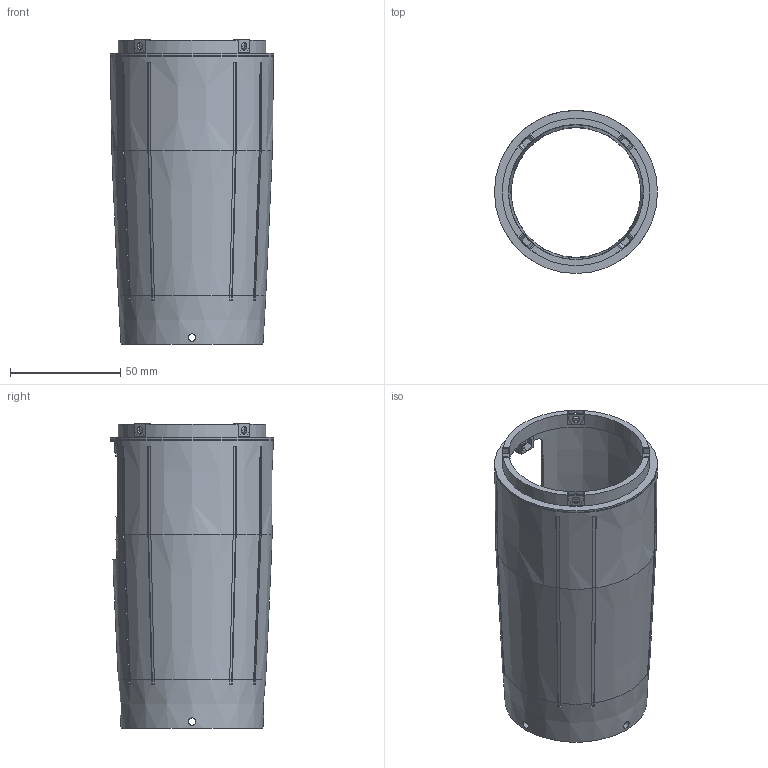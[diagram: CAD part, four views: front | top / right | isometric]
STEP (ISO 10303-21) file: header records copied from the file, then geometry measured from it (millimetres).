
FILE_DESCRIPTION(('FreeCAD Model'),'2;1');
FILE_NAME('Open CASCADE Shape Model','2026-09-19T21:01:32',('FreeCAD'),( 'FreeCAD'),'Open CASCADE STEP processor 7.8','FreeCAD','Unknown');
FILE_SCHEMA(('AUTOMOTIVE_DESIGN { 1 0 10303 214 1 1 1 1 }'));
Length unit declared in the file: millimetre
Products named in the file (1): Open CASCADE STEP translator 7.8 1
Bounding box: 74 x 74 x 138.2 mm (x, y, z)
Volume: 78242.9 mm3; surface area: 61851 mm2
Topology: 1 solids, 1 shells, 207 faces, 599 edges, 401 vertices
Faces by surface type: plane 141, cone 41, cylinder 25
Full cylindrical faces by diameter (mm): 3.4 x14, 61.3 x1, 66.9 x1, 73.982 x1
Entity records: 8651 total; most frequent: CARTESIAN_POINT 3069, ORIENTED_EDGE 1198, DIRECTION 1113, EDGE_CURVE 599, VERTEX_POINT 401, LINE 391, VECTOR 391, AXIS2_PLACEMENT_3D 361
